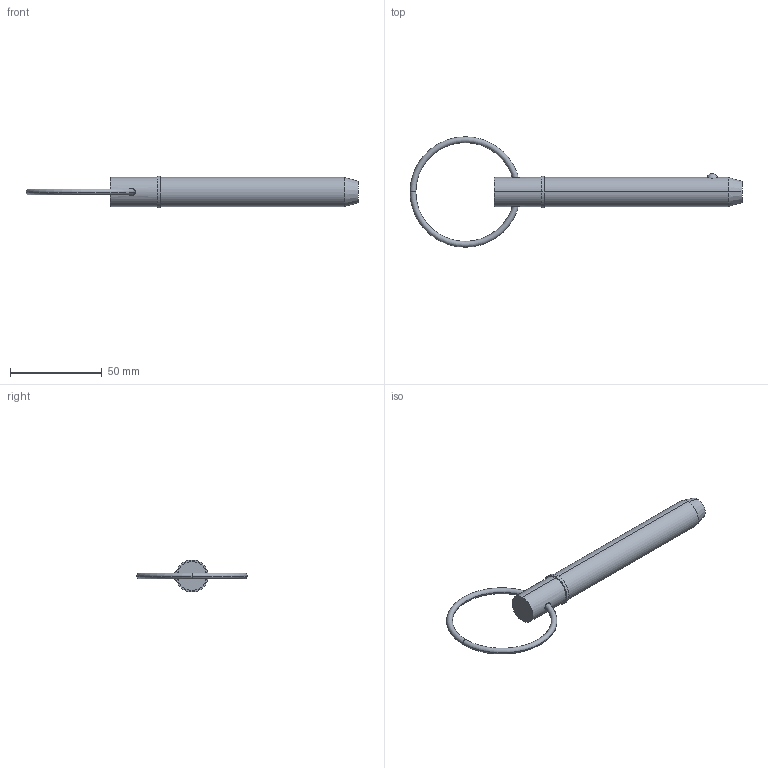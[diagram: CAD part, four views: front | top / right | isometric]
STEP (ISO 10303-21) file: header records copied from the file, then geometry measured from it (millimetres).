
FILE_DESCRIPTION (( 'STEP AP203' ), '1' );
FILE_NAME ('33016.W6235.step', '2024-11-07T11:12:52', ( '' ), ( '' ), 'SwSTEP 2.0', 'SolidWorks 2019', '' );
FILE_SCHEMA (( 'CONFIG_CONTROL_DESIGN' ));
Length unit declared in the file: millimetre
Products named in the file (3): Part1_33016.W6235; 33016.W6235; Part2_33016.W6235
Assembly tree (2 placements, depth 2):
  33016.W6235
    Part1_33016.W6235
    Part2_33016.W6235
Bounding box: 181.28 x 60.33 x 17.47 mm (x, y, z)
Volume: 27779.7 mm3; surface area: 9094.7 mm2
Topology: 2 solids, 2 shells, 22 faces, 43 edges, 26 vertices
Faces by surface type: torus 8, cylinder 6, plane 4, sphere 2, cone 2
Entity records: 1047 total; most frequent: CARTESIAN_POINT 270, DIRECTION 120, ORIENTED_EDGE 86, AXIS2_PLACEMENT_3D 56, EDGE_CURVE 43, CIRCLE 29, EDGE_LOOP 27, VERTEX_POINT 26
